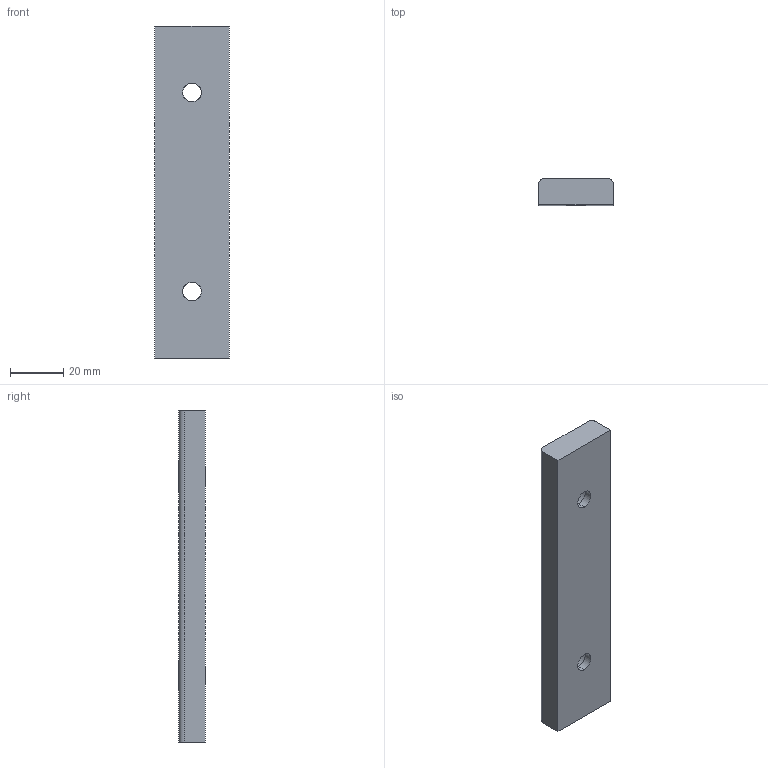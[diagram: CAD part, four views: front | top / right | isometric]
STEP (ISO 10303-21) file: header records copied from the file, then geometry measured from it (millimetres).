
FILE_DESCRIPTION(('CATIA V5 STEP Exchange'),'2;1');
FILE_NAME('C:\Users\Utente\Desktop\3D files A606\A606-028-125.stp','2020-04-13T18:07:36+00:00',('none'),('none'),'CATIA Version 5 Release 20 GA (IN-10)','CATIA V5 STEP AP203','none');
FILE_SCHEMA(('CONFIG_CONTROL_DESIGN'));
Length unit declared in the file: millimetre
Products named in the file (1): Noname
Bounding box: 28 x 10 x 125 mm (x, y, z)
Surface area: 10303.8 mm2 (no closed solid volume)
Topology: 0 solids, 14 shells, 18 faces, 76 edges, 68 vertices
Faces by surface type: cylinder 10, extrusion 8
Entity records: 1044 total; most frequent: CARTESIAN_POINT 415, DIRECTION 84, ORIENTED_EDGE 84, EDGE_CURVE 76, VERTEX_POINT 68, VECTOR 44, LINE 36, AXIS2_PLACEMENT_3D 31
